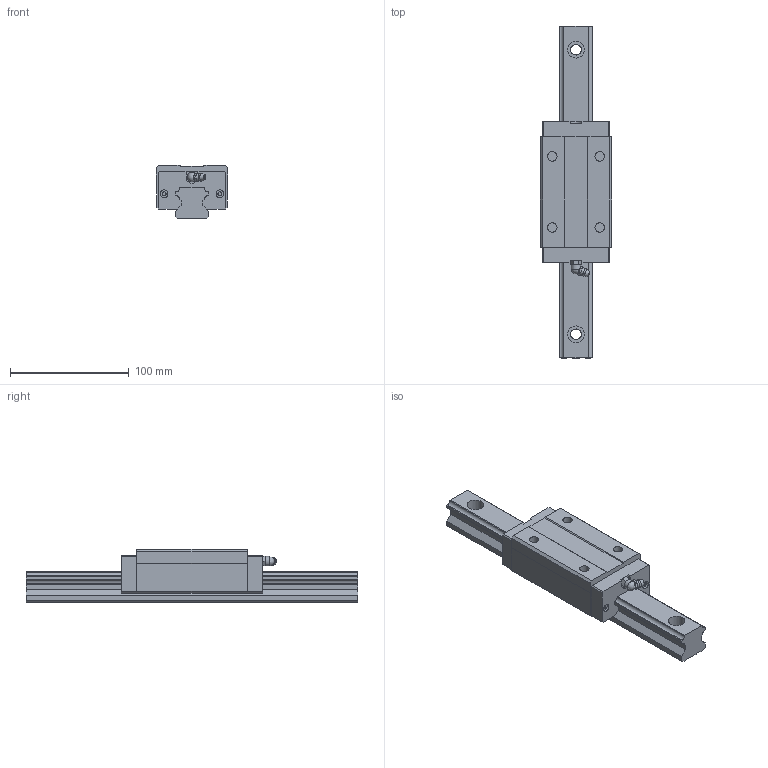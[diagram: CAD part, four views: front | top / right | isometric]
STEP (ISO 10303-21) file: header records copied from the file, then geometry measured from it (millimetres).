
FILE_DESCRIPTION(/* description */ (''),/* implementation_level */ '2;1');
FILE_NAME(/* name */ 'MSA30LS',/* time_stamp */ '2003-12-29T10:46:26+08:00',/* author */ (''),/* organization */ (''),/* preprocessor_version */ 'ST-DEVELOPER v9',/* originating_system */ '',/* authorisation */ '');
FILE_SCHEMA (('CONFIG_CONTROL_DESIGN'));
Length unit declared in the file: millimetre
Products named in the file (1): zirc5932mw9d
Bounding box: 60 x 280 x 45 mm (x, y, z)
Volume: 361173.2 mm3; surface area: 69007.4 mm2
Topology: 3 solids, 3 shells, 183 faces, 480 edges, 316 vertices
Faces by surface type: plane 140, cylinder 32, torus 7, sphere 2, cone 1, bspline 1
Full cylindrical faces by diameter (mm): 3.25 x4, 6.5 x5, 8 x5, 9 x4, 14 x4
Entity records: 5641 total; most frequent: CARTESIAN_POINT 1106, DIRECTION 904, ORIENTED_EDGE 894, EDGE_CURVE 447, LINE 320, VECTOR 320, VERTEX_POINT 310, AXIS2_PLACEMENT_3D 292
